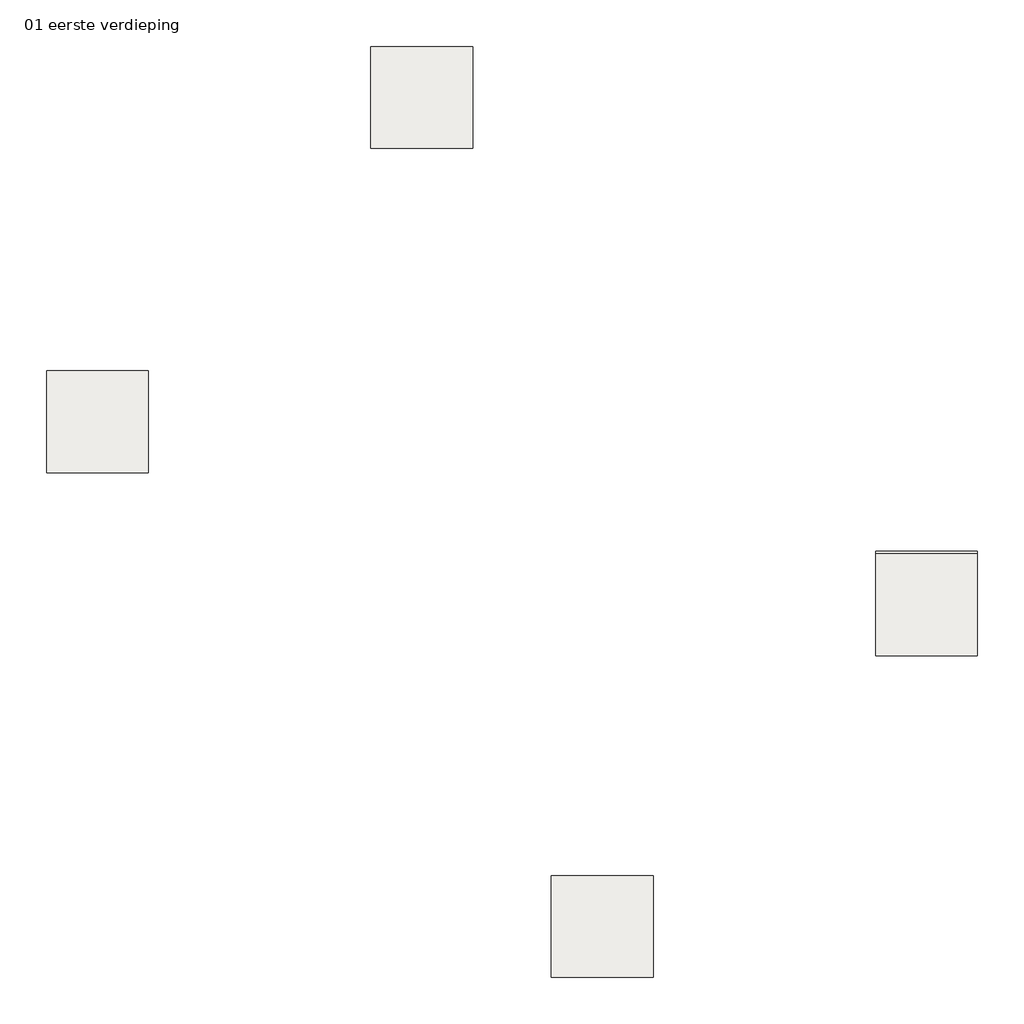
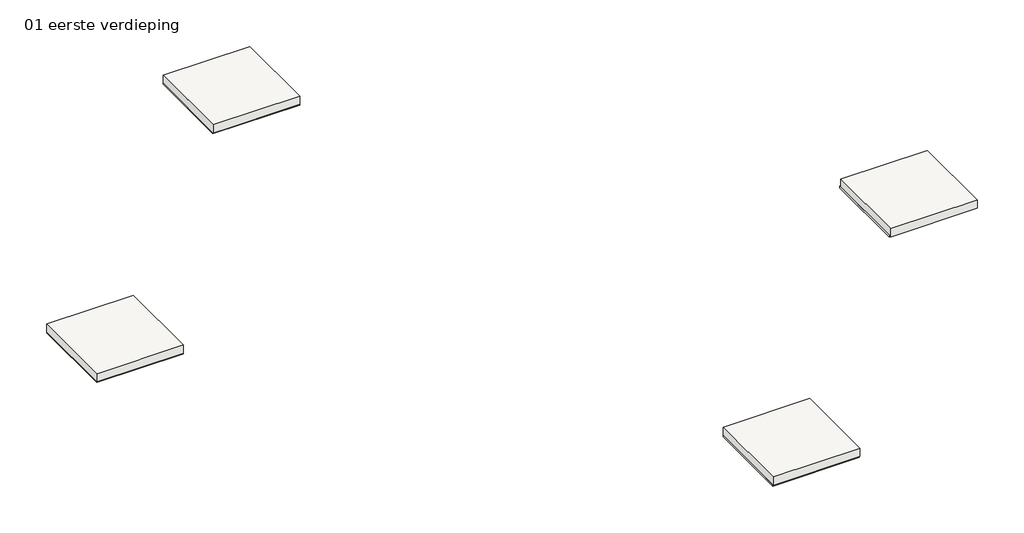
# One storey: 4 coverings, 4 slabs.
"""IFC4 building model written with IfcOpenShell, lengths in millimetres."""

import ifcopenshell
import ifcopenshell.guid

model = None  # the IFC model being written
_history = None  # IfcOwnerHistory: only IFC2X3 demands one
_inside = {}  # id of a spatial element -> (the spatial element, [elements in it])
_under = {}  # id of a project, library or spatial element -> (it, [spatial elements below it])
_declared = {}  # id of a project -> (the project, [libraries it declares])
_typed = {}  # id of a type object -> (the type object, [elements of that type])
_made_of = {}  # id of a material, layer set ... -> (it, [elements and type objects made of it])


def new_model(schema):
    """Start an empty IFC model of exactly this schema.

    Asked for "IFC4X3", IfcOpenShell would pick the latest addendum, in which some entities
    have other attributes; the version numbers below select the first issue.
    IFC2X3 requires an IfcOwnerHistory on every rooted entity: one is made here for all.
    """
    global model, _history
    if schema == "IFC4X3":
        model = ifcopenshell.file(schema_version=(4, 3, 0, 0))
    else:
        model = ifcopenshell.file(schema=schema)
    _inside.clear()
    _under.clear()
    _declared.clear()
    _typed.clear()
    _made_of.clear()
    _history = None
    if model.schema == "IFC2X3":
        org = make("IfcOrganization", Name="unknown")
        user = make(
            "IfcPersonAndOrganization",
            ThePerson=make("IfcPerson", FamilyName="unknown"),
            TheOrganization=org,
        )
        app = make(
            "IfcApplication",
            ApplicationDeveloper=org,
            Version="unknown",
            ApplicationFullName="unknown",
            ApplicationIdentifier="unknown",
        )
        _history = make(
            "IfcOwnerHistory",
            OwningUser=user,
            OwningApplication=app,
            ChangeAction="ADDED",
            CreationDate=0,
        )
    return model


def make(cls, **values):
    """One entity of the class cls with the attributes given. An attribute that is None is left unset."""
    return model.create_entity(
        cls, **{name: value for name, value in values.items() if value is not None}
    )


def rooted(cls, **values):
    """An entity with a GlobalId (a new one), such as an element, a storey or a relation."""
    return make(cls, GlobalId=ifcopenshell.guid.new(), OwnerHistory=_history, **values)


def si_unit(unit_type, name, prefix=None):
    """IfcSIUnit, for example si_unit("LENGTHUNIT", "METRE", prefix="MILLI")."""
    return make("IfcSIUnit", UnitType=unit_type, Prefix=prefix, Name=name)


def assignment(units):
    """IfcUnitAssignment: the units of a project."""
    return None if units is None else make("IfcUnitAssignment", Units=units)


def point(xyz):
    """IfcCartesianPoint."""
    return None if xyz is None else make("IfcCartesianPoint", Coordinates=xyz)


def direction(xyz):
    """IfcDirection."""
    return None if xyz is None else make("IfcDirection", DirectionRatios=xyz)


def frame(location, z_axis=None, x_axis=None):
    """IfcAxis2Placement3D, a coordinate frame: its origin and axes. An axis left out is left unset."""
    return make(
        "IfcAxis2Placement3D",
        Location=point(location),
        Axis=direction(z_axis),
        RefDirection=direction(x_axis),
    )


def origin():
    """The frame at (0, 0, 0) with its axes left unset."""
    return frame((0.0, 0.0, 0.0))


def place(relative_to, where):
    """IfcLocalPlacement: puts the frame where relative to a parent placement (None: the world)."""
    return make(
        "IfcLocalPlacement", PlacementRelTo=relative_to, RelativePlacement=where
    )


def context(
    kind, dimensions, precision=None, world=None, true_north=None, identifier=None
):
    """IfcGeometricRepresentationContext, for example the 3D "Model" context."""
    return make(
        "IfcGeometricRepresentationContext",
        ContextIdentifier=identifier,
        ContextType=kind,
        CoordinateSpaceDimension=dimensions,
        Precision=precision,
        WorldCoordinateSystem=world,
        TrueNorth=true_north,
    )


def project(units=None, contexts=None):
    """IfcProject with its units and contexts."""
    return rooted(
        "IfcProject",
        Name="project",
        RepresentationContexts=contexts,
        UnitsInContext=assignment(units),
    )


def spatial(cls, under=None, at=None, **own):
    """A site, building, storey or space (cls), placed at a placement, below another one or the project."""
    s = rooted(cls, ObjectPlacement=at, **own)
    if under is not None:
        _under.setdefault(under.id(), (under, []))[1].append(s)
    return s


def polyline(points):
    """IfcPolyline through the points."""
    return make("IfcPolyline", Points=[point(p) for p in points])


def outline(outer, holes=None, kind="AREA"):
    """IfcArbitraryClosedProfileDef: a profile drawn as a closed curve; with holes, ...WithVoids."""
    if holes is None:
        return make("IfcArbitraryClosedProfileDef", ProfileType=kind, OuterCurve=outer)
    return make(
        "IfcArbitraryProfileDefWithVoids",
        ProfileType=kind,
        OuterCurve=outer,
        InnerCurves=holes,
    )


def extrude(swept, where, along, depth):
    """IfcExtrudedAreaSolid: the profile swept, set in the frame where, extruded along a direction by depth."""
    return make(
        "IfcExtrudedAreaSolid",
        SweptArea=swept,
        Position=where,
        ExtrudedDirection=direction(along),
        Depth=depth,
    )


def shape(context_of_items, identifier, shape_type, items):
    """IfcShapeRepresentation: the items that make up one representation, for example the "Body"."""
    return make(
        "IfcShapeRepresentation",
        ContextOfItems=context_of_items,
        RepresentationIdentifier=identifier,
        RepresentationType=shape_type,
        Items=items,
    )


def made_of(thing, what):
    """Note that an element or type object is made of a material, layer set ...; save() writes the relation."""
    if what is not None:
        _made_of.setdefault(what.id(), (what, []))[1].append(thing)
    return thing


def element(
    cls,
    number,
    at=None,
    inside=None,
    cuts=None,
    type_object=None,
    material=None,
    context=None,
    identifier="Body",
    shape_type=None,
    held_by="IfcProductDefinitionShape",
    body=None,
    shapes=None,
    **own,
):
    """One element of the class cls, such as IfcWall. Its Tag is "e" and its number.

    at: its placement. inside: the storey or other place that contains it. cuts: it is an
    opening in that element (IfcRelVoidsElement). A single representation is given by context,
    identifier, shape_type and body (its items); several are given by shapes. held_by: the class
    of the entity that holds the representations. save() writes the other relations.
    """
    e = rooted(cls, Tag="e%d" % number, ObjectPlacement=at, **own)
    if body is not None:
        shapes = [shape(context, identifier, shape_type, body)]
    if shapes is not None:
        e.Representation = make(held_by, Representations=shapes)
    if inside is not None:
        _inside.setdefault(inside.id(), (inside, []))[1].append(e)
    if cuts is not None:
        rooted(
            "IfcRelVoidsElement", RelatingBuildingElement=cuts, RelatedOpeningElement=e
        )
    if type_object is not None:
        _typed.setdefault(type_object.id(), (type_object, []))[1].append(e)
    return made_of(e, material)


def aggregate(whole, parts):
    """IfcRelAggregates: a whole, such as a stair, and the parts it consists of."""
    return rooted("IfcRelAggregates", RelatingObject=whole, RelatedObjects=parts)


def save(model, path):
    """Write the relations noted so far, then the file.

    IfcRelAggregates (storeys below a building ...), IfcRelContainedInSpatialStructure (elements
    in a storey), IfcRelDefinesByType, IfcRelAssociatesMaterial and IfcRelDeclares: one each for
    every whole, place, type object, material and project.
    """
    for whole, parts in _under.values():
        aggregate(whole, parts)
    for where, things in _inside.values():
        rooted(
            "IfcRelContainedInSpatialStructure",
            RelatedElements=things,
            RelatingStructure=where,
        )
    for kind, things in _typed.values():
        rooted("IfcRelDefinesByType", RelatedObjects=things, RelatingType=kind)
    for what, things in _made_of.values():
        rooted("IfcRelAssociatesMaterial", RelatedObjects=things, RelatingMaterial=what)
    for by, libraries in _declared.values():
        rooted("IfcRelDeclares", RelatingContext=by, RelatedDefinitions=libraries)
    model.write(path)


model = new_model("IFC4")

# Units and contexts
model_context = context("Model", 3, world=origin())
ifc_project = project(units=[si_unit("LENGTHUNIT", "METRE", prefix="MILLI")], contexts=[model_context])

# Site, building, storey
site = spatial("IfcSite", under=ifc_project)
building = spatial("IfcBuilding", under=site)
storey = spatial("IfcBuildingStorey", under=building, Name="01 eerste verdieping", Elevation=1800.0)

# Coverings
placement = place(None, origin())
element("IfcCovering", 1, ObjectType="NLRS_45_CEI_Heraklith - Basis 15x2000x600mm", at=placement, inside=storey, context=model_context, shape_type="SweptSolid", body=[
    extrude(outline(polyline([(2000.0, 4515.0), (2000.0, 2515.0), (0.0, 2515.0), (0.0, 4515.0), (2000.0, 4515.0)])), frame((0.0, 0.0, 1785.0), z_axis=(0.0, 0.0, 1.0), x_axis=(1.0, 0.0, 0.0)), (0.0, 0.0, 1.0), 15.0),
])
element("IfcCovering", 2, ObjectType="NLRS_45_CEI_Heraklith - Basis 25x2000x600mm", at=placement, inside=storey, context=model_context, shape_type="SweptSolid", body=[
    extrude(outline(polyline([(8363.9610307, 10878.9610307), (8363.9610307, 8883.9610307), (6363.9610307, 8883.9610307), (6363.9610307, 10878.9610307), (8363.9610307, 10878.9610307)])), frame((0.0, 0.0, 1775.0), z_axis=(0.0, 0.0, 1.0), x_axis=(1.0, 0.0, 0.0)), (0.0, 0.0, 1.0), 20.0),
])
element("IfcCovering", 3, ObjectType="NLRS_45_CEI_Heraklith - Basis 35x2000x600mm", at=placement, inside=storey, context=model_context, shape_type="SweptSolid", body=[
    extrude(outline(polyline([(11899.4949366, -5384.4949366), (11899.4949366, -7374.4949366), (9899.4949366, -7374.4949366), (9899.4949366, -5384.4949366), (11899.4949366, -5384.4949366)])), frame((0.0, 0.0, 1785.0), z_axis=(0.0, 0.0, 1.0), x_axis=(1.0, 0.0, 0.0)), (0.0, 0.0, 1.0), 35.0),
])
element("IfcCovering", 4, ObjectType="NLRS_45_CEI_Heraklith - Basis 50x2000x600mm", at=placement, inside=storey, context=model_context, shape_type="SweptSolid", body=[
    extrude(outline(polyline([(18263.4559673, 979.4660941), (18263.4559673, -1003.0339059), (16263.4559673, -1003.0339059), (16263.4559673, 979.4660941), (18263.4559673, 979.4660941)])), frame((0.0, 0.0, 1775.0), z_axis=(0.0, 0.0, 1.0), x_axis=(1.0, 0.0, 0.0)), (0.0, 0.0, 1.0), 50.0),
])

# Slabs
element("IfcSlab", 5, ObjectType="Generic 200mm", at=placement, inside=storey, context=model_context, shape_type="SweptSolid", body=[
    extrude(outline(polyline([(2000.0, 4515.0), (2000.0, 2515.0), (0.0, 2515.0), (0.0, 4515.0), (2000.0, 4515.0)])), frame((0.0, 0.0, 1800.0), z_axis=(0.0, 0.0, 1.0), x_axis=(1.0, 0.0, 0.0)), (0.0, 0.0, 1.0), 200.0),
])
element("IfcSlab", 6, ObjectType="Generic 200mm", at=placement, inside=storey, context=model_context, shape_type="SweptSolid", body=[
    extrude(outline(polyline([(8363.9610307, 10878.9610307), (8363.9610307, 8878.9610307), (6363.9610307, 8878.9610307), (6363.9610307, 10878.9610307), (8363.9610307, 10878.9610307)])), frame((0.0, 0.0, 1795.0), z_axis=(0.0, 0.0, 1.0), x_axis=(1.0, 0.0, 0.0)), (0.0, 0.0, 1.0), 200.0),
])
element("IfcSlab", 7, ObjectType="Generic 200mm", at=placement, inside=storey, context=model_context, shape_type="SweptSolid", body=[
    extrude(outline(polyline([(18263.4559673, 929.4660941), (18263.4559673, -1070.5339059), (16263.4559673, -1070.5339059), (16263.4559673, 929.4660941), (18263.4559673, 929.4660941)])), frame((0.0, 0.0, 1825.0), z_axis=(0.0, 0.0, 1.0), x_axis=(1.0, 0.0, 0.0)), (0.0, 0.0, 1.0), 200.0),
])
element("IfcSlab", 8, ObjectType="Generic 200mm", at=placement, inside=storey, context=model_context, shape_type="SweptSolid", body=[
    extrude(outline(polyline([(11899.4949366, -5384.4949366), (11899.4949366, -7384.4949366), (9899.4949366, -7384.4949366), (9899.4949366, -5384.4949366), (11899.4949366, -5384.4949366)])), frame((0.0, 0.0, 1820.0), z_axis=(0.0, 0.0, 1.0), x_axis=(1.0, 0.0, 0.0)), (0.0, 0.0, 1.0), 200.0),
])

save(model, "model.ifc")
